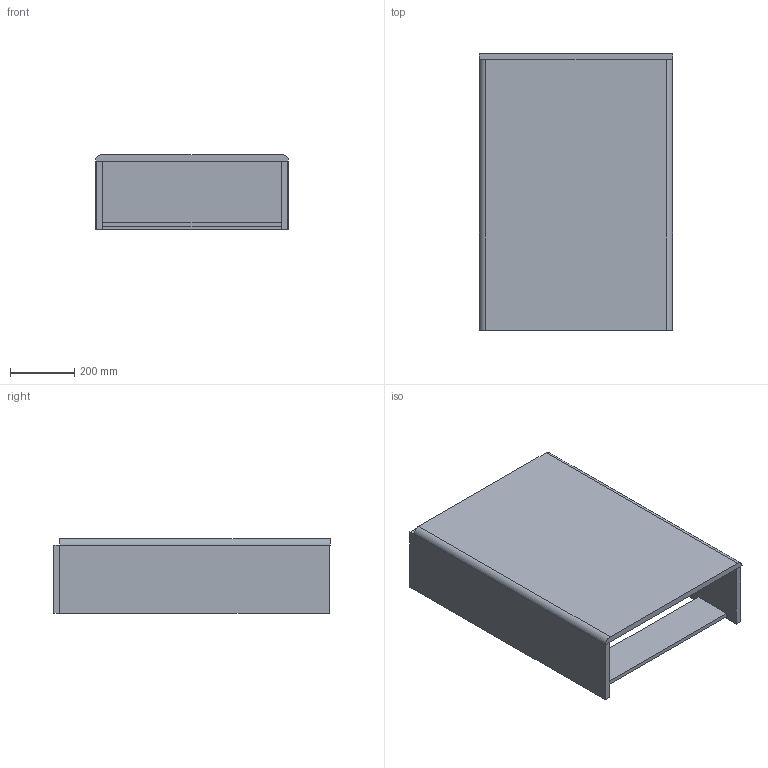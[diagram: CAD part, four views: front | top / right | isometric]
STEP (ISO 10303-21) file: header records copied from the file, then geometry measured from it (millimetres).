
FILE_DESCRIPTION(('FreeCAD Model'),'2;1');
FILE_NAME('Open CASCADE Shape Model','2025-05-30T18:17:25',(''),(''), 'Open CASCADE STEP processor 7.8','FreeCAD','Unknown');
FILE_SCHEMA(('AUTOMOTIVE_DESIGN { 1 0 10303 214 1 1 1 1 }'));
Length unit declared in the file: millimetre
Products named in the file (2): TopLevelAssembly; Po\X2\01420105\X0\czona geometria bry\X2\0142\X0\owa
Assembly tree (1 placements, depth 2):
  TopLevelAssembly
    Po\X2\01420105\X0\czona geometria bry\X2\0142\X0\owa
Bounding box: 599 x 858.17 x 232 mm (x, y, z)
Volume: 21021754.5 mm3; surface area: 2326392.5 mm2
Topology: 1 solids, 1 shells, 28 faces, 76 edges, 46 vertices
Faces by surface type: plane 26, cylinder 2
Entity records: 904 total; most frequent: CARTESIAN_POINT 152, ORIENTED_EDGE 152, DIRECTION 140, EDGE_CURVE 76, LINE 72, VECTOR 72, VERTEX_POINT 46, AXIS2_PLACEMENT_3D 34
